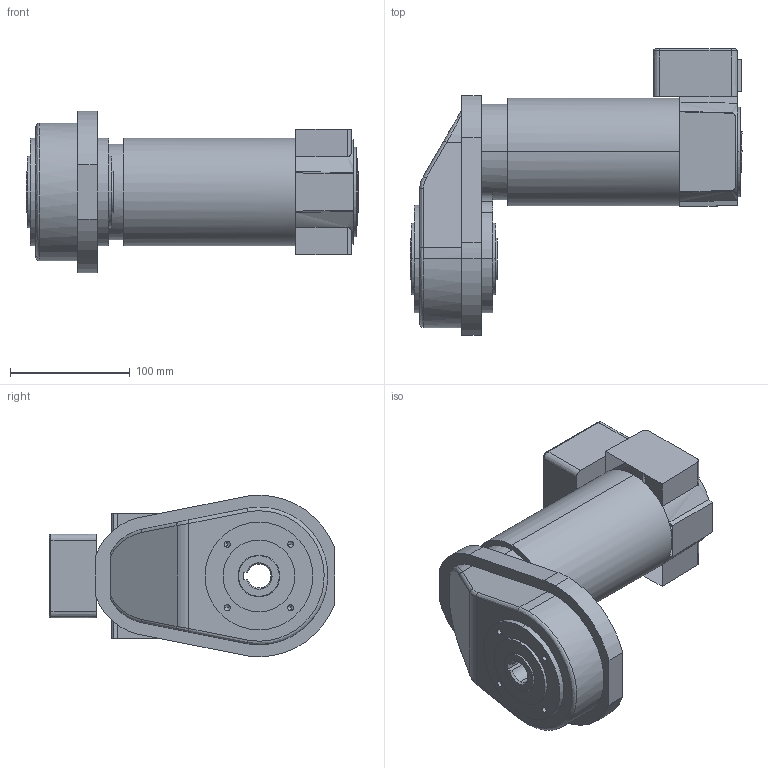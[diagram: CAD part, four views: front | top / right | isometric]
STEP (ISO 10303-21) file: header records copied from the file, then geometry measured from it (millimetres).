
FILE_DESCRIPTION(('OneSpaceDesigner STEP Export'),'2;1');
FILE_NAME('EPG23_KK_FB30.stp','2010-04-13T11:10:25',(''),(''),'OneSpace Designer STEP processor (Jan. 2003) for AP214(CD)(Solid Model)','OneSpace Designer 12.01D 09-Jul-2004 (C) CoCreate Software GmbH','');
FILE_SCHEMA(('AUTOMOTIVE_DESIGN_CC2 {1 2 10303 214 -1 1 5 1}'));
Length unit declared in the file: millimetre
Products named in the file (2): EPG23_KK_FB30
Assembly tree (1 placements, depth 2):
  EPG23_KK_FB30
    EPG23_KK_FB30
Bounding box: 277.5 x 239 x 135 mm (x, y, z)
Volume: 2556649.1 mm3; surface area: 164051 mm2
Topology: 1 solids, 1 shells, 186 faces, 454 edges, 282 vertices
Faces by surface type: cylinder 80, plane 57, cone 26, bspline 19, extrusion 4
Entity records: 8836 total; most frequent: CARTESIAN_POINT 4975, ORIENTED_EDGE 876, DIRECTION 592, EDGE_CURVE 438, VERTEX_POINT 282, EDGE_LOOP 216, VECTOR 204, LINE 200
